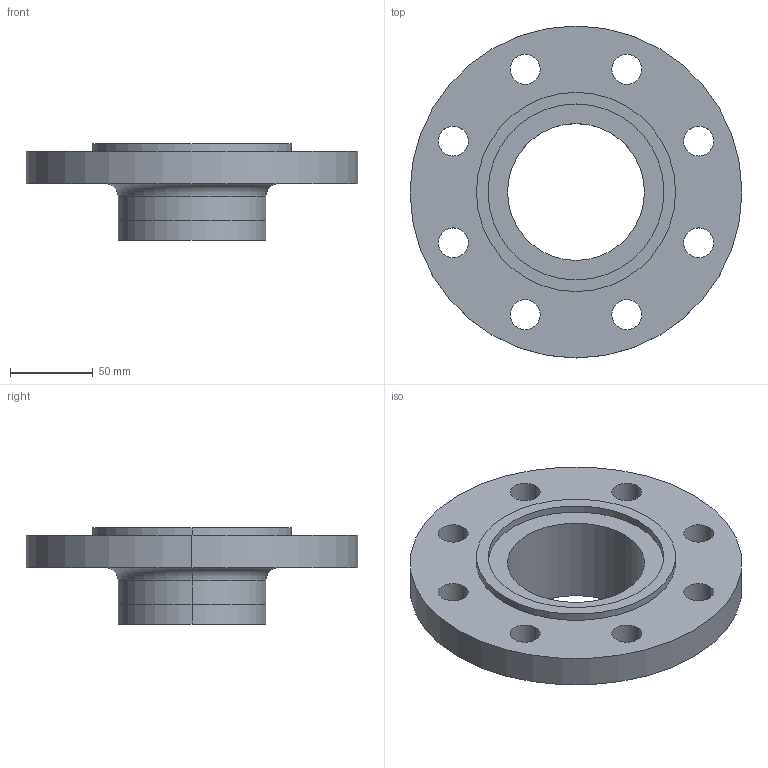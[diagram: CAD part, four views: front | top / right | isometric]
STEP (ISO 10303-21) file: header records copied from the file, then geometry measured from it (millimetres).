
FILE_DESCRIPTION (( 'STEP AP214' ), '1' );
FILE_NAME ('PN40 DN80 Type 11 - Type C Face.STEP', '2019-01-01T19:42:48', ( '' ), ( '' ), 'SwSTEP 2.0', 'SolidWorks 2019', '' );
FILE_SCHEMA (( 'AUTOMOTIVE_DESIGN' ));
Length unit declared in the file: millimetre
Products named in the file (1): PN40 DN80 Type 11 - Type C Face
Bounding box: 200 x 200 x 58 mm (x, y, z)
Volume: 513353.1 mm3; surface area: 94759.1 mm2
Topology: 1 solids, 1 shells, 37 faces, 90 edges, 58 vertices
Faces by surface type: cylinder 26, plane 5, torus 4, cone 2
Entity records: 1188 total; most frequent: DIRECTION 228, CARTESIAN_POINT 186, ORIENTED_EDGE 180, AXIS2_PLACEMENT_3D 100, EDGE_CURVE 90, CIRCLE 62, VERTEX_POINT 58, EDGE_LOOP 58
